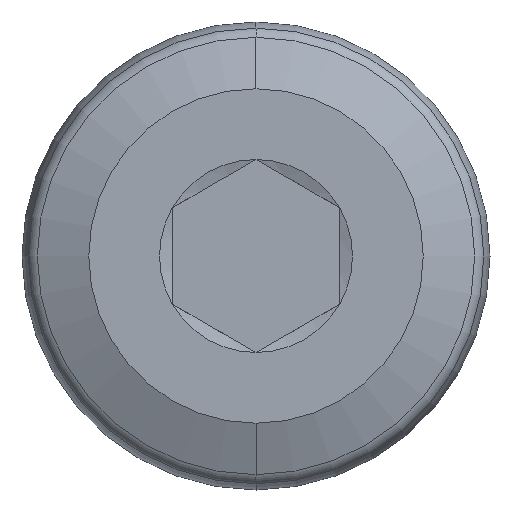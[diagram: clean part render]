
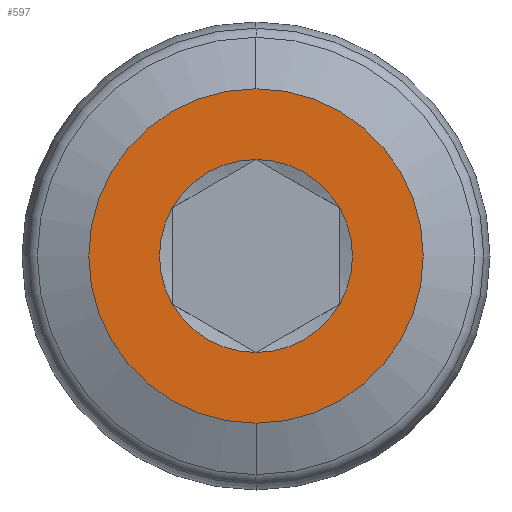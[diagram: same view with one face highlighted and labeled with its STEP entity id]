
A CAD part, left-side view. The second image highlights one B-rep face of the part: STEP entity #597.
In plain terms, the highlighted planar face has unit normal (-1, 0, 0).
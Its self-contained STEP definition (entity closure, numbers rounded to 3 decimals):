
#8 = DIRECTION ( 'NONE',  ( 0., 0., -1. ) ) ;
#11 = CARTESIAN_POINT ( 'NONE',  ( 0., 0., 0. ) ) ;
#17 = EDGE_CURVE ( 'NONE', #733, #64, #378, .T. ) ;
#20 = ORIENTED_EDGE ( 'NONE', *, *, #223, .F. ) ;
#24 = CARTESIAN_POINT ( 'NONE',  ( 0., 0., 0. ) ) ;
#40 = CARTESIAN_POINT ( 'NONE',  ( 0., 0., -2.887 ) ) ;
#44 = EDGE_LOOP ( 'NONE', ( #84, #161, #325, #607, #158, #301 ) ) ;
#47 = CIRCLE ( 'NONE', #198, 5. ) ;
#56 = CARTESIAN_POINT ( 'NONE',  ( 0., 5., 0. ) ) ;
#62 = DIRECTION ( 'NONE',  ( 1., 0., 0. ) ) ;
#64 = VERTEX_POINT ( 'NONE', #658 ) ;
#73 = ORIENTED_EDGE ( 'NONE', *, *, #694, .F. ) ;
#84 = ORIENTED_EDGE ( 'NONE', *, *, #422, .T. ) ;
#88 = AXIS2_PLACEMENT_3D ( 'NONE', #821, #626, #687 ) ;
#99 = CARTESIAN_POINT ( 'NONE',  ( 0., 0., -5. ) ) ;
#102 = EDGE_CURVE ( 'NONE', #568, #421, #235, .T. ) ;
#108 = VERTEX_POINT ( 'NONE', #194 ) ;
#124 = EDGE_CURVE ( 'NONE', #666, #456, #720, .T. ) ;
#131 = DIRECTION ( 'NONE',  ( 1., 0., 0. ) ) ;
#150 = EDGE_LOOP ( 'NONE', ( #73, #20 ) ) ;
#151 = DIRECTION ( 'NONE',  ( 0., 0., -1. ) ) ;
#158 = ORIENTED_EDGE ( 'NONE', *, *, #736, .T. ) ;
#161 = ORIENTED_EDGE ( 'NONE', *, *, #17, .T. ) ;
#185 = AXIS2_PLACEMENT_3D ( 'NONE', #703, #359, #570 ) ;
#191 = DIRECTION ( 'NONE',  ( 0., 0., -1. ) ) ;
#194 = CARTESIAN_POINT ( 'NONE',  ( 0., 0., 5. ) ) ;
#198 = AXIS2_PLACEMENT_3D ( 'NONE', #569, #639, #702 ) ;
#203 = CARTESIAN_POINT ( 'NONE',  ( 0., 0., 0. ) ) ;
#217 = CARTESIAN_POINT ( 'NONE',  ( 0., 0., 0. ) ) ;
#223 = EDGE_CURVE ( 'NONE', #108, #565, #326, .T. ) ;
#235 = CIRCLE ( 'NONE', #479, 2.887 ) ;
#262 = DIRECTION ( 'NONE',  ( 1., 0., 0. ) ) ;
#288 = CARTESIAN_POINT ( 'NONE',  ( 0., 2.5, -1.443 ) ) ;
#301 = ORIENTED_EDGE ( 'NONE', *, *, #102, .T. ) ;
#325 = ORIENTED_EDGE ( 'NONE', *, *, #442, .T. ) ;
#326 = CIRCLE ( 'NONE', #185, 5. ) ;
#338 = AXIS2_PLACEMENT_3D ( 'NONE', #11, #262, #717 ) ;
#357 = DIRECTION ( 'NONE',  ( 1., 0., 0. ) ) ;
#359 = DIRECTION ( 'NONE',  ( 1., 0., 0. ) ) ;
#378 = CIRCLE ( 'NONE', #338, 2.887 ) ;
#379 = FACE_OUTER_BOUND ( 'NONE', #150, .T. ) ;
#421 = VERTEX_POINT ( 'NONE', #663 ) ;
#422 = EDGE_CURVE ( 'NONE', #421, #733, #787, .T. ) ;
#442 = EDGE_CURVE ( 'NONE', #64, #666, #684, .T. ) ;
#455 = DIRECTION ( 'NONE',  ( 0., 0., 1. ) ) ;
#456 = VERTEX_POINT ( 'NONE', #40 ) ;
#479 = AXIS2_PLACEMENT_3D ( 'NONE', #510, #62, #191 ) ;
#507 = AXIS2_PLACEMENT_3D ( 'NONE', #203, #131, #8 ) ;
#510 = CARTESIAN_POINT ( 'NONE',  ( 0., 0., 0. ) ) ;
#511 = DIRECTION ( 'NONE',  ( -1., 0., 0. ) ) ;
#520 = PLANE ( 'NONE',  #734 ) ;
#565 = VERTEX_POINT ( 'NONE', #99 ) ;
#568 = VERTEX_POINT ( 'NONE', #288 ) ;
#569 = CARTESIAN_POINT ( 'NONE',  ( 0., 0., 0. ) ) ;
#570 = DIRECTION ( 'NONE',  ( 0., 0., -1. ) ) ;
#572 = CARTESIAN_POINT ( 'NONE',  ( 0., -2.5, -1.443 ) ) ;
#577 = AXIS2_PLACEMENT_3D ( 'NONE', #24, #602, #782 ) ;
#582 = FACE_BOUND ( 'NONE', #44, .T. ) ;
#597 = ADVANCED_FACE ( 'NONE', ( #582, #379 ), #520, .T. ) ;
#602 = DIRECTION ( 'NONE',  ( 1., 0., 0. ) ) ;
#607 = ORIENTED_EDGE ( 'NONE', *, *, #124, .T. ) ;
#626 = DIRECTION ( 'NONE',  ( 1., 0., 0. ) ) ;
#639 = DIRECTION ( 'NONE',  ( 1., 0., 0. ) ) ;
#658 = CARTESIAN_POINT ( 'NONE',  ( 0., -2.5, 1.443 ) ) ;
#663 = CARTESIAN_POINT ( 'NONE',  ( 0., 2.5, 1.443 ) ) ;
#666 = VERTEX_POINT ( 'NONE', #572 ) ;
#684 = CIRCLE ( 'NONE', #721, 2.887 ) ;
#687 = DIRECTION ( 'NONE',  ( 0., 0., -1. ) ) ;
#694 = EDGE_CURVE ( 'NONE', #565, #108, #47, .T. ) ;
#702 = DIRECTION ( 'NONE',  ( 0., 0., -1. ) ) ;
#703 = CARTESIAN_POINT ( 'NONE',  ( 0., 0., 0. ) ) ;
#717 = DIRECTION ( 'NONE',  ( 0., 0., -1. ) ) ;
#720 = CIRCLE ( 'NONE', #88, 2.887 ) ;
#721 = AXIS2_PLACEMENT_3D ( 'NONE', #217, #357, #151 ) ;
#733 = VERTEX_POINT ( 'NONE', #796 ) ;
#734 = AXIS2_PLACEMENT_3D ( 'NONE', #56, #511, #455 ) ;
#736 = EDGE_CURVE ( 'NONE', #456, #568, #827, .T. ) ;
#782 = DIRECTION ( 'NONE',  ( 0., 0., -1. ) ) ;
#787 = CIRCLE ( 'NONE', #507, 2.887 ) ;
#796 = CARTESIAN_POINT ( 'NONE',  ( 0., 0., 2.887 ) ) ;
#821 = CARTESIAN_POINT ( 'NONE',  ( 0., 0., 0. ) ) ;
#827 = CIRCLE ( 'NONE', #577, 2.887 ) ;
